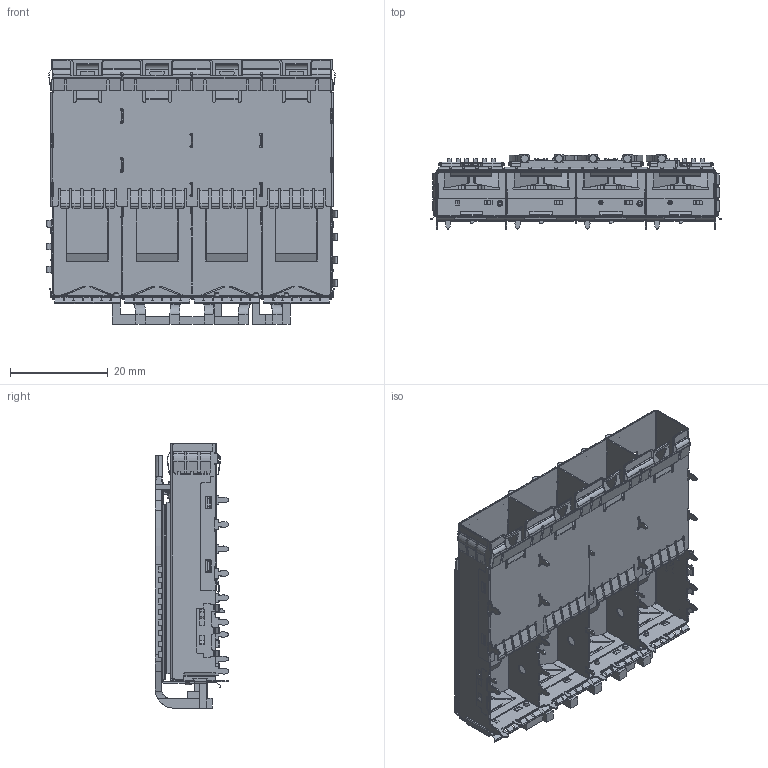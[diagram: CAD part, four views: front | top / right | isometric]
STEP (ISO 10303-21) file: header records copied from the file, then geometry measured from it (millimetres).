
FILE_DESCRIPTION (( 'STEP AP203' ), '1' );
FILE_NAME ('20160826_asm.STEP', '2019-01-25T01:42:04', ( 'KingUser' ), ( 'JinHongNiu' ), 'SwSTEP 2.0', 'SolidWorks 2015', '' );
FILE_SCHEMA (( 'CONFIG_CONTROL_DESIGN' ));
Products named in the file (2): 20160826_asm
Bounding box: 59.46 x 15.08 x 54.08 mm (x, y, z)
Volume: 5503.3 mm3; surface area: 25340.8 mm2
Topology: 24 solids, 24 shells, 5901 faces, 17226 edges, 11263 vertices
Faces by surface type: plane 3505, cylinder 2341, bspline 47, cone 4, torus 4
Entity records: 198420 total; most frequent: CARTESIAN_POINT 38502, ORIENTED_EDGE 34452, DIRECTION 32981, EDGE_CURVE 17226, LINE 12305, VECTOR 12305, VERTEX_POINT 11263, AXIS2_PLACEMENT_3D 10338
